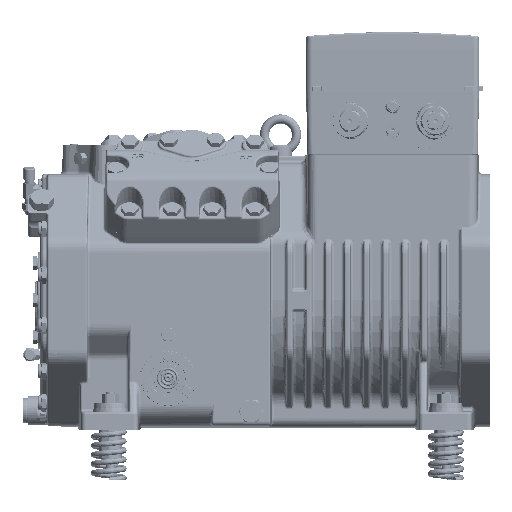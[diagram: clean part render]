
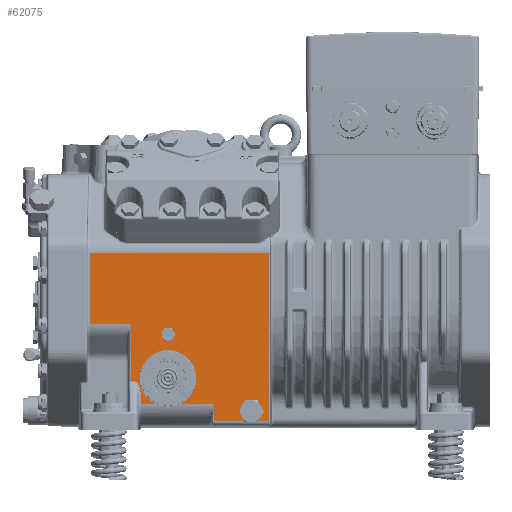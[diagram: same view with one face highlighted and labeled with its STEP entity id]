
A CAD part, front view. The second image highlights one B-rep face of the part: STEP entity #62075.
In plain terms, the highlighted planar face has unit normal (0, -1, 0).
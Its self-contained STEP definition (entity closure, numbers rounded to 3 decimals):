
#28851=LINE('',#251815,#41976);
#28854=LINE('',#251844,#41979);
#28856=LINE('',#251875,#41981);
#28857=LINE('',#251907,#41982);
#28858=LINE('',#251909,#41983);
#28860=LINE('',#251923,#41985);
#28861=LINE('',#251925,#41986);
#28863=LINE('',#251938,#41988);
#29176=LINE('',#259962,#42301);
#29186=LINE('',#260310,#42311);
#29364=LINE('',#262933,#42489);
#29384=LINE('',#262983,#42509);
#29385=LINE('',#262986,#42510);
#41976=VECTOR('',#207586,1.);
#41979=VECTOR('',#207591,1.);
#41981=VECTOR('',#207605,1.);
#41982=VECTOR('',#207616,1.);
#41983=VECTOR('',#207619,1.);
#41985=VECTOR('',#207625,1.);
#41986=VECTOR('',#207628,1.);
#41988=VECTOR('',#207634,1.);
#42301=VECTOR('',#209923,1.);
#42311=VECTOR('',#210007,1.);
#42489=VECTOR('',#210891,1.);
#42509=VECTOR('',#210939,1.);
#42510=VECTOR('',#210940,1.);
#55380=ELLIPSE('',#192508,10.1,5.05);
#55382=ELLIPSE('',#192513,16.001,8.);
#59003=FACE_BOUND('',#86128,.T.);
#59004=FACE_BOUND('',#86129,.T.);
#59005=FACE_BOUND('',#86130,.T.);
#59006=FACE_BOUND('',#86131,.T.);
#59007=FACE_BOUND('',#86132,.T.);
#62075=ADVANCED_FACE('',(#59003,#59004,#59005,#59006,#59007),#70758,.T.);
#70758=PLANE('',#193913);
#86128=EDGE_LOOP('',(#105745));
#86129=EDGE_LOOP('',(#105746,#105747,#105748,#105749,#105750,#105751,#105752,
#105753,#105754,#105755,#105756,#105757,#105758,#105759));
#86130=EDGE_LOOP('',(#105760));
#86131=EDGE_LOOP('',(#105761,#105762));
#86132=EDGE_LOOP('',(#105763,#105764));
#105745=ORIENTED_EDGE('',*,*,#166466,.F.);
#105746=ORIENTED_EDGE('',*,*,#163826,.T.);
#105747=ORIENTED_EDGE('',*,*,#164716,.T.);
#105748=ORIENTED_EDGE('',*,*,#164717,.T.);
#105749=ORIENTED_EDGE('',*,*,#164721,.T.);
#105750=ORIENTED_EDGE('',*,*,#165980,.T.);
#105751=ORIENTED_EDGE('',*,*,#166443,.T.);
#105752=ORIENTED_EDGE('',*,*,#165930,.T.);
#105753=ORIENTED_EDGE('',*,*,#164693,.T.);
#105754=ORIENTED_EDGE('',*,*,#164697,.T.);
#105755=ORIENTED_EDGE('',*,*,#164702,.T.);
#105756=ORIENTED_EDGE('',*,*,#164705,.T.);
#105757=ORIENTED_EDGE('',*,*,#164708,.T.);
#105758=ORIENTED_EDGE('',*,*,#164710,.T.);
#105759=ORIENTED_EDGE('',*,*,#164711,.T.);
#105760=ORIENTED_EDGE('',*,*,#163842,.T.);
#105761=ORIENTED_EDGE('',*,*,#166467,.T.);
#105762=ORIENTED_EDGE('',*,*,#166467,.F.);
#105763=ORIENTED_EDGE('',*,*,#166468,.T.);
#105764=ORIENTED_EDGE('',*,*,#166468,.F.);
#148426=VERTEX_POINT('',#247894);
#148427=VERTEX_POINT('',#247895);
#148443=VERTEX_POINT('',#247943);
#148964=VERTEX_POINT('',#250974);
#148973=VERTEX_POINT('',#251022);
#149085=VERTEX_POINT('',#251814);
#149088=VERTEX_POINT('',#251843);
#149091=VERTEX_POINT('',#251857);
#149093=VERTEX_POINT('',#251874);
#149094=VERTEX_POINT('',#251879);
#149095=VERTEX_POINT('',#251906);
#149099=VERTEX_POINT('',#251922);
#149100=VERTEX_POINT('',#251926);
#149712=VERTEX_POINT('',#259963);
#149739=VERTEX_POINT('',#260288);
#150002=VERTEX_POINT('',#262982);
#150003=VERTEX_POINT('',#262984);
#150004=VERTEX_POINT('',#262985);
#150005=VERTEX_POINT('',#262987);
#150006=VERTEX_POINT('',#262988);
#163826=EDGE_CURVE('',#148426,#148427,#187480,.T.);
#163842=EDGE_CURVE('',#148443,#148443,#187496,.T.);
#164693=EDGE_CURVE('',#148964,#149085,#28851,.T.);
#164697=EDGE_CURVE('',#149085,#149088,#28854,.T.);
#164702=EDGE_CURVE('',#149088,#149091,#55380,.T.);
#164705=EDGE_CURVE('',#149091,#149093,#28856,.T.);
#164708=EDGE_CURVE('',#149093,#149094,#55382,.T.);
#164710=EDGE_CURVE('',#149094,#149095,#28857,.T.);
#164711=EDGE_CURVE('',#149095,#148426,#28858,.T.);
#164716=EDGE_CURVE('',#148427,#149099,#28860,.T.);
#164717=EDGE_CURVE('',#149099,#149100,#28861,.T.);
#164721=EDGE_CURVE('',#149100,#148973,#28863,.T.);
#165930=EDGE_CURVE('',#149712,#148964,#29176,.T.);
#165980=EDGE_CURVE('',#148973,#149739,#29186,.T.);
#166443=EDGE_CURVE('',#149739,#149712,#29364,.T.);
#166466=EDGE_CURVE('',#150002,#150002,#188129,.T.);
#166467=EDGE_CURVE('',#150003,#150004,#29384,.T.);
#166468=EDGE_CURVE('',#150005,#150006,#29385,.T.);
#187480=CIRCLE('',#191892,31.);
#187496=CIRCLE('',#191923,8.678);
#188129=CIRCLE('',#193912,6.858);
#191892=AXIS2_PLACEMENT_3D('',#247896,#206073,#206074);
#191923=AXIS2_PLACEMENT_3D('',#247942,#206135,#206136);
#192508=AXIS2_PLACEMENT_3D('',#251858,#207600,#207601);
#192513=AXIS2_PLACEMENT_3D('',#251880,#207612,#207613);
#193912=AXIS2_PLACEMENT_3D('',#262981,#210937,#210938);
#193913=AXIS2_PLACEMENT_3D('',#262989,#210941,#210942);
#206073=DIRECTION('',(0.,1.,0.));
#206074=DIRECTION('',(0.,0.,1.));
#206135=DIRECTION('',(0.,1.,0.));
#206136=DIRECTION('',(0.,0.,1.));
#207586=DIRECTION('',(1.,0.,0.));
#207591=DIRECTION('',(0.,0.,-1.));
#207600=DIRECTION('',(0.,1.,0.));
#207601=DIRECTION('',(-0.01,0.,1.));
#207605=DIRECTION('',(1.,0.,0.));
#207612=DIRECTION('',(0.,1.,0.));
#207613=DIRECTION('',(0.01,0.,1.));
#207616=DIRECTION('',(0.,0.,-1.));
#207619=DIRECTION('',(1.,0.,0.));
#207625=DIRECTION('',(1.,0.,0.));
#207628=DIRECTION('',(0.,0.,-1.));
#207634=DIRECTION('',(1.,0.,0.));
#209923=DIRECTION('',(0.,0.,-1.));
#210007=DIRECTION('',(0.,0.,1.));
#210891=DIRECTION('',(-1.,0.,0.));
#210937=DIRECTION('',(0.,-1.,0.));
#210938=DIRECTION('',(0.,0.,-1.));
#210939=DIRECTION('',(-1.,0.,0.));
#210940=DIRECTION('',(-1.,0.,0.));
#210941=DIRECTION('',(0.,-1.,0.));
#210942=DIRECTION('',(0.,0.,-1.));
#247894=CARTESIAN_POINT('',(-117.229,-130.,-113.392));
#247895=CARTESIAN_POINT('',(-90.171,-130.,-113.392));
#247896=CARTESIAN_POINT('',(-103.7,-130.,-85.5));
#247942=CARTESIAN_POINT('',(-12.7,-130.,-121.5));
#247943=CARTESIAN_POINT('',(-12.7,-130.,-112.822));
#250974=CARTESIAN_POINT('',(-189.121,-130.,-26.5));
#251022=CARTESIAN_POINT('',(6.335,-130.,-132.317));
#251814=CARTESIAN_POINT('',(-144.385,-130.,-26.5));
#251815=CARTESIAN_POINT('',(-192.2,-130.,-26.5));
#251843=CARTESIAN_POINT('',(-144.385,-130.,-88.485));
#251844=CARTESIAN_POINT('',(-144.385,-130.,0.));
#251857=CARTESIAN_POINT('',(-144.324,-130.,-88.485));
#251858=CARTESIAN_POINT('',(-144.247,-130.,-98.585));
#251874=CARTESIAN_POINT('',(-141.283,-130.,-88.485));
#251875=CARTESIAN_POINT('',(-141.276,-130.,-88.485));
#251879=CARTESIAN_POINT('',(-133.403,-130.,-104.243));
#251880=CARTESIAN_POINT('',(-141.404,-130.,-104.485));
#251906=CARTESIAN_POINT('',(-133.403,-130.,-113.392));
#251907=CARTESIAN_POINT('',(-133.403,-130.,-113.392));
#251909=CARTESIAN_POINT('',(-192.2,-130.,-113.392));
#251922=CARTESIAN_POINT('',(-53.7,-130.,-113.392));
#251923=CARTESIAN_POINT('',(-192.2,-130.,-113.392));
#251925=CARTESIAN_POINT('',(-53.7,-130.,0.));
#251926=CARTESIAN_POINT('',(-53.7,-130.,-132.317));
#251938=CARTESIAN_POINT('',(-192.2,-130.,-132.317));
#259962=CARTESIAN_POINT('',(-189.121,-130.,-26.5));
#259963=CARTESIAN_POINT('',(-189.121,-130.,51.294));
#260288=CARTESIAN_POINT('',(6.335,-130.,51.294));
#260310=CARTESIAN_POINT('',(6.335,-130.,0.));
#262933=CARTESIAN_POINT('',(-192.2,-130.,51.294));
#262981=CARTESIAN_POINT('',(-103.7,-130.,-37.5));
#262982=CARTESIAN_POINT('',(-103.7,-130.,-44.358));
#262983=CARTESIAN_POINT('',(-192.2,-130.,50.177));
#262984=CARTESIAN_POINT('',(-88.835,-130.,50.177));
#262985=CARTESIAN_POINT('',(-109.565,-130.,50.177));
#262986=CARTESIAN_POINT('',(-192.2,-130.,50.177));
#262987=CARTESIAN_POINT('',(-44.835,-130.,50.177));
#262988=CARTESIAN_POINT('',(-65.565,-130.,50.177));
#262989=CARTESIAN_POINT('',(-192.2,-130.,0.));
